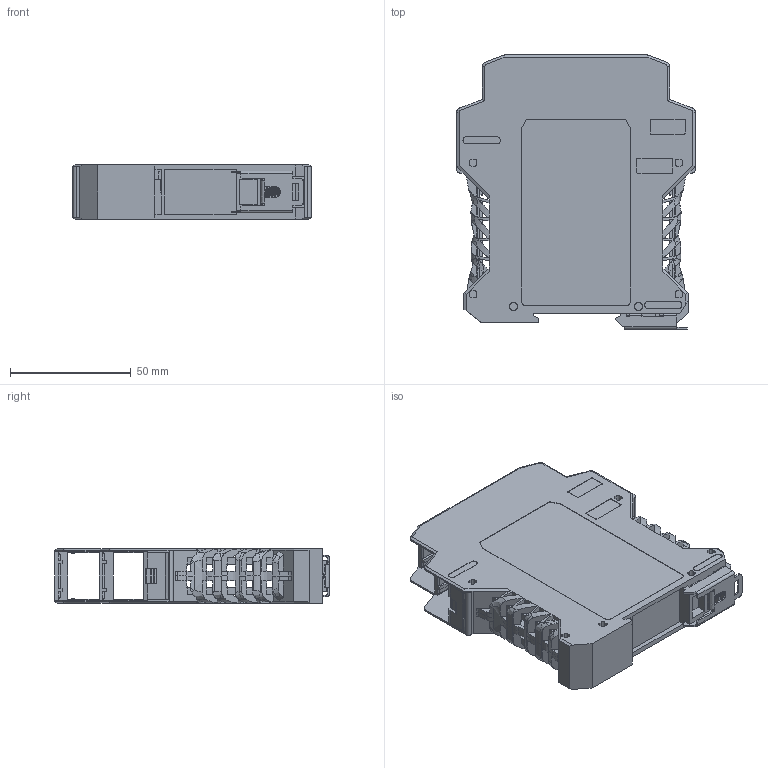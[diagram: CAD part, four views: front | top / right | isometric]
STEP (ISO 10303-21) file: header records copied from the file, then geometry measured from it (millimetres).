
FILE_DESCRIPTION(('FreeCAD Model'),'2;1');
FILE_NAME('Open CASCADE Shape Model','2023-04-20T10:16:06',('Author'),( ''),'Open CASCADE STEP processor 7.6','FreeCAD','Unknown');
FILE_SCHEMA(('AUTOMOTIVE_DESIGN { 1 0 10303 214 1 1 1 1 }'));
Products named in the file (1): CPME-DIN22,5-V
Bounding box: 99 x 113.9 x 22.5 mm (x, y, z)
Volume: 41440.9 mm3; surface area: 62156.3 mm2
Topology: 3 solids, 3 shells, 2407 faces, 7051 edges, 4558 vertices
Faces by surface type: plane 2085, bspline 169, cylinder 135, cone 10, torus 8
Entity records: 191830 total; most frequent: CARTESIAN_POINT 54267, DIRECTION 24506, LINE 18623, VECTOR 18623, ORIENTED_EDGE 14082, PCURVE 14082, DEFINITIONAL_REPRESENTATION 14082, EDGE_CURVE 7041
